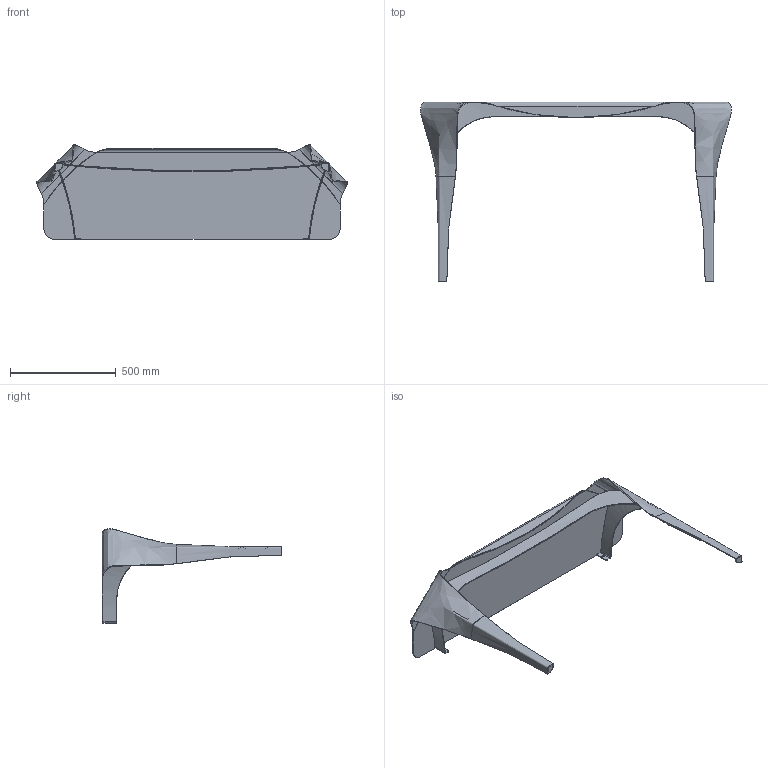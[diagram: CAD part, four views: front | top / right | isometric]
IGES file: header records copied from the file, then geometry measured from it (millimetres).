
Start section: SolidWorks IGES file using analytic representation for surfaces
Global section: file name: \\192.168.0.53\Reserch Development\FOTO DE CASTELLI\PRODOTTI\3D_LISTINO 2019_IGES\DeCastelli_Convivium Consolle.IGS; native system: SolidWorks 2020; preprocessor: SolidWorks 2020; author: AlessandroP; date: 210302.153415; units: millimetre
Bounding box: 1470.96 x 850.06 x 446.5 mm (x, y, z)
Surface area: 2103265.2 mm2 (no closed solid volume)
Topology: 0 solids, 0 shells, 96 faces, 1445 edges, 1445 vertices
Faces by surface type: bspline 61, revolution 35
